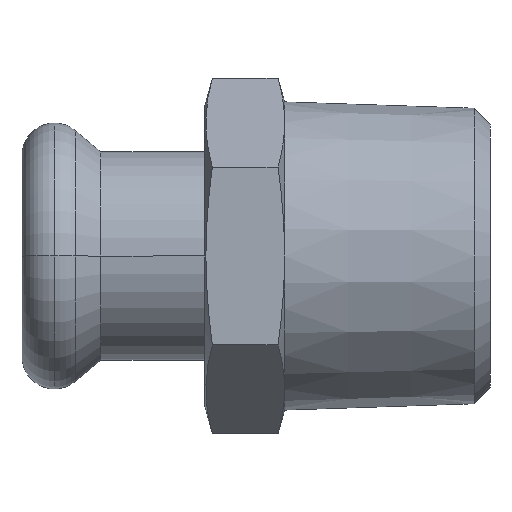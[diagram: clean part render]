
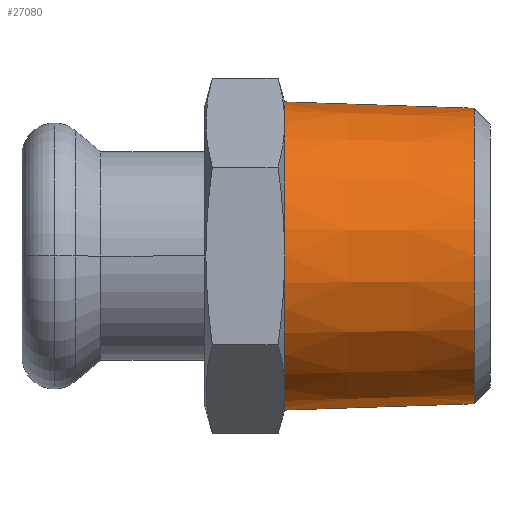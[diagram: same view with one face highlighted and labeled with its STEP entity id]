
A CAD part, front view. The second image highlights one B-rep face of the part: STEP entity #27080.
In plain terms, the highlighted conical face has half-angle 1.909 degrees and reference radius 13.5 mm.
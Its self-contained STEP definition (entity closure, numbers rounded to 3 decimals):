
#480=CARTESIAN_POINT('',(-52.97,-198.006,
0.));
#490=DIRECTION('',(-1.,0.,0.));
#500=DIRECTION('',(0.,0.,1.));
#510=AXIS2_PLACEMENT_3D('',#480,#490,#500);
#520=CIRCLE('',#510,12.947);
#550=CARTESIAN_POINT('',(-52.97,-198.006,-12.947
));
#560=VERTEX_POINT('',#550);
#840=CARTESIAN_POINT('',(-52.97,-198.006,12.947)
);
#850=VERTEX_POINT('',#840);
#930=CARTESIAN_POINT('',(-69.571,-198.006,
0.));
#940=DIRECTION('',(-1.,0.,0.));
#950=DIRECTION('',(0.,0.,1.));
#960=AXIS2_PLACEMENT_3D('',#930,#940,#950);
#970=CONICAL_SURFACE('',#960,13.5,0.033);
#980=CARTESIAN_POINT('',(-69.571,-198.006,13.5));
#990=DIRECTION('',(-0.999,0.,0.033));
#1000=VECTOR('',#990,1.);
#1010=LINE('',#980,#1000);
#1020=CARTESIAN_POINT('',(-69.571,-198.006,13.5));
#1030=VERTEX_POINT('',#1020);
#1040=EDGE_CURVE('',#850,#1030,#1010,.T.);
#1060=CARTESIAN_POINT('',(-69.571,-198.006,
0.));
#1070=DIRECTION('',(-1.,0.,0.));
#1080=DIRECTION('',(0.,0.,1.));
#1090=AXIS2_PLACEMENT_3D('',#1060,#1070,#1080);
#1100=CIRCLE('',#1090,13.5);
#1230=CARTESIAN_POINT('',(-69.571,-198.006,-13.5));
#1240=VERTEX_POINT('',#1230);
#1270=CARTESIAN_POINT('',(-69.571,-198.006,-13.5));
#1280=DIRECTION('',(-0.999,0.,-0.033));
#1290=VECTOR('',#1280,1.);
#1300=LINE('',#1270,#1290);
#1310=EDGE_CURVE('',#560,#1240,#1300,.T.);
#5620=CARTESIAN_POINT('',(-69.571,-204.756,
-11.691));
#5630=VERTEX_POINT('',#5620);
#7460=CARTESIAN_POINT('',(-69.571,-211.506,
0.));
#7470=VERTEX_POINT('',#7460);
#10110=CARTESIAN_POINT('',(-69.571,-204.756,
11.691));
#10120=VERTEX_POINT('',#10110);
#10690=EDGE_CURVE('',#7470,#10120,#1100,.T.);
#10760=EDGE_CURVE('',#10120,#1030,#1100,.T.);
#10950=EDGE_CURVE('',#5630,#7470,#1100,.T.);
#11020=EDGE_CURVE('',#1240,#5630,#1100,.T.);
#26790=EDGE_CURVE('',#560,#850,#520,.T.);
#26990=ORIENTED_EDGE('',*,*,#26790,.T.);
#27000=ORIENTED_EDGE('',*,*,#1310,.F.);
#27010=ORIENTED_EDGE('',*,*,#11020,.F.);
#27020=ORIENTED_EDGE('',*,*,#10950,.F.);
#27030=ORIENTED_EDGE('',*,*,#10690,.F.);
#27040=ORIENTED_EDGE('',*,*,#10760,.F.);
#27050=ORIENTED_EDGE('',*,*,#1040,.T.);
#27060=EDGE_LOOP('',(#27050,#27040,#27030,#27020,#27010,#27000,#26990));
#27070=FACE_OUTER_BOUND('',#27060,.T.);
#27080=ADVANCED_FACE('',(#27070),#970,.T.);
